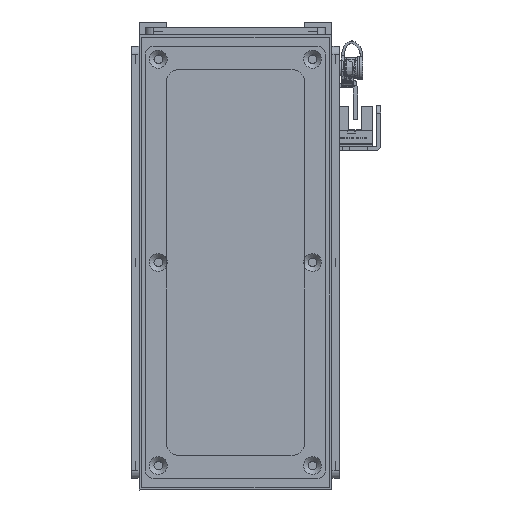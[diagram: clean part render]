
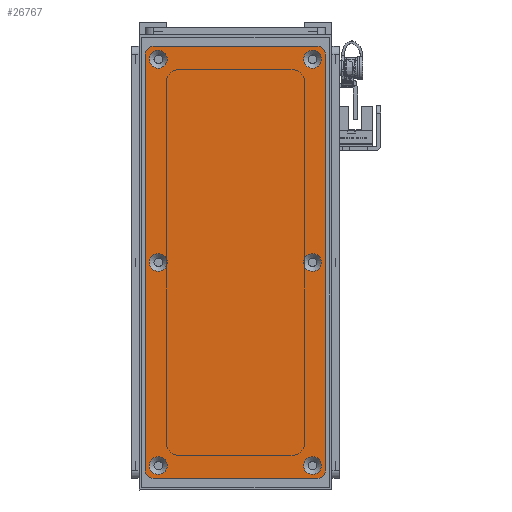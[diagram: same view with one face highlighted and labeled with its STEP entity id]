
A CAD part, left-side view. The second image highlights one B-rep face of the part: STEP entity #26767.
In plain terms, the highlighted planar face has unit normal (-1, 0, 0) as drawn and (0, 0, 1) by its records, which use the part's own axes.
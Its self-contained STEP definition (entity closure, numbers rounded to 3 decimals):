
#1144=FACE_BOUND('',#5763,.T.);
#1145=FACE_BOUND('',#5764,.T.);
#1146=FACE_BOUND('',#5765,.T.);
#1147=FACE_BOUND('',#5766,.T.);
#1148=FACE_BOUND('',#5767,.T.);
#1149=FACE_BOUND('',#5768,.T.);
#1818=PLANE('',#30044);
#3847=FACE_OUTER_BOUND('',#5762,.T.);
#5762=EDGE_LOOP('',(#25049,#25050,#25051,#25052,#25053,#25054,#25055,#25056));
#5763=EDGE_LOOP('',(#25057));
#5764=EDGE_LOOP('',(#25058));
#5765=EDGE_LOOP('',(#25059));
#5766=EDGE_LOOP('',(#25060));
#5767=EDGE_LOOP('',(#25061));
#5768=EDGE_LOOP('',(#25062));
#7951=LINE('',#46772,#10135);
#7954=LINE('',#46780,#10138);
#7957=LINE('',#46788,#10141);
#7960=LINE('',#46795,#10144);
#10135=VECTOR('',#37858,10.);
#10138=VECTOR('',#37867,10.);
#10141=VECTOR('',#37876,10.);
#10144=VECTOR('',#37885,10.);
#11514=CIRCLE('',#29998,3.45);
#11517=CIRCLE('',#30003,3.45);
#11520=CIRCLE('',#30008,3.45);
#11523=CIRCLE('',#30013,3.45);
#11526=CIRCLE('',#30018,3.45);
#11529=CIRCLE('',#30023,3.45);
#11536=CIRCLE('',#30033,3.);
#11537=CIRCLE('',#30036,3.);
#11538=CIRCLE('',#30039,3.);
#11539=CIRCLE('',#30042,3.);
#13970=VERTEX_POINT('',#46688);
#13973=VERTEX_POINT('',#46698);
#13976=VERTEX_POINT('',#46708);
#13979=VERTEX_POINT('',#46718);
#13982=VERTEX_POINT('',#46728);
#13985=VERTEX_POINT('',#46738);
#13996=VERTEX_POINT('',#46765);
#13997=VERTEX_POINT('',#46767);
#13998=VERTEX_POINT('',#46771);
#13999=VERTEX_POINT('',#46775);
#14000=VERTEX_POINT('',#46779);
#14001=VERTEX_POINT('',#46783);
#14002=VERTEX_POINT('',#46787);
#14003=VERTEX_POINT('',#46791);
#17645=EDGE_CURVE('',#13970,#13970,#11514,.T.);
#17650=EDGE_CURVE('',#13973,#13973,#11517,.T.);
#17655=EDGE_CURVE('',#13976,#13976,#11520,.T.);
#17660=EDGE_CURVE('',#13979,#13979,#11523,.T.);
#17665=EDGE_CURVE('',#13982,#13982,#11526,.T.);
#17670=EDGE_CURVE('',#13985,#13985,#11529,.T.);
#17684=EDGE_CURVE('',#13997,#13996,#11536,.T.);
#17686=EDGE_CURVE('',#13998,#13997,#7951,.T.);
#17688=EDGE_CURVE('',#13999,#13998,#11537,.T.);
#17690=EDGE_CURVE('',#14000,#13999,#7954,.T.);
#17692=EDGE_CURVE('',#14001,#14000,#11538,.T.);
#17694=EDGE_CURVE('',#14002,#14001,#7957,.T.);
#17696=EDGE_CURVE('',#14003,#14002,#11539,.T.);
#17698=EDGE_CURVE('',#13996,#14003,#7960,.T.);
#25049=ORIENTED_EDGE('',*,*,#17698,.T.);
#25050=ORIENTED_EDGE('',*,*,#17696,.T.);
#25051=ORIENTED_EDGE('',*,*,#17694,.T.);
#25052=ORIENTED_EDGE('',*,*,#17692,.T.);
#25053=ORIENTED_EDGE('',*,*,#17690,.T.);
#25054=ORIENTED_EDGE('',*,*,#17688,.T.);
#25055=ORIENTED_EDGE('',*,*,#17686,.T.);
#25056=ORIENTED_EDGE('',*,*,#17684,.T.);
#25057=ORIENTED_EDGE('',*,*,#17645,.T.);
#25058=ORIENTED_EDGE('',*,*,#17650,.T.);
#25059=ORIENTED_EDGE('',*,*,#17655,.T.);
#25060=ORIENTED_EDGE('',*,*,#17660,.T.);
#25061=ORIENTED_EDGE('',*,*,#17665,.T.);
#25062=ORIENTED_EDGE('',*,*,#17670,.T.);
#26767=ADVANCED_FACE('',(#3847,#1144,#1145,#1146,#1147,#1148,#1149),#1818,
 .T.);
#29998=AXIS2_PLACEMENT_3D('',#46689,#37766,#37767);
#30003=AXIS2_PLACEMENT_3D('',#46699,#37778,#37779);
#30008=AXIS2_PLACEMENT_3D('',#46709,#37790,#37791);
#30013=AXIS2_PLACEMENT_3D('',#46719,#37802,#37803);
#30018=AXIS2_PLACEMENT_3D('',#46729,#37814,#37815);
#30023=AXIS2_PLACEMENT_3D('',#46739,#37826,#37827);
#30033=AXIS2_PLACEMENT_3D('',#46768,#37853,#37854);
#30036=AXIS2_PLACEMENT_3D('',#46776,#37862,#37863);
#30039=AXIS2_PLACEMENT_3D('',#46784,#37871,#37872);
#30042=AXIS2_PLACEMENT_3D('',#46792,#37880,#37881);
#30044=AXIS2_PLACEMENT_3D('',#46796,#37886,#37887);
#37766=DIRECTION('center_axis',(0.,0.,-1.));
#37767=DIRECTION('ref_axis',(1.,0.,0.));
#37778=DIRECTION('center_axis',(0.,0.,-1.));
#37779=DIRECTION('ref_axis',(1.,0.,0.));
#37790=DIRECTION('center_axis',(0.,0.,-1.));
#37791=DIRECTION('ref_axis',(1.,0.,0.));
#37802=DIRECTION('center_axis',(0.,0.,-1.));
#37803=DIRECTION('ref_axis',(1.,0.,0.));
#37814=DIRECTION('center_axis',(0.,0.,-1.));
#37815=DIRECTION('ref_axis',(1.,0.,0.));
#37826=DIRECTION('center_axis',(0.,0.,-1.));
#37827=DIRECTION('ref_axis',(1.,0.,0.));
#37853=DIRECTION('center_axis',(0.,0.,1.));
#37854=DIRECTION('ref_axis',(-1.,0.,0.));
#37858=DIRECTION('',(0.,1.,0.));
#37862=DIRECTION('center_axis',(0.,0.,1.));
#37863=DIRECTION('ref_axis',(0.,1.,0.));
#37867=DIRECTION('',(1.,0.,0.));
#37871=DIRECTION('center_axis',(0.,0.,1.));
#37872=DIRECTION('ref_axis',(1.,0.,0.));
#37876=DIRECTION('',(0.,-1.,0.));
#37880=DIRECTION('center_axis',(0.,0.,1.));
#37881=DIRECTION('ref_axis',(0.,-1.,0.));
#37885=DIRECTION('',(-1.,0.,0.));
#37886=DIRECTION('center_axis',(0.,0.,1.));
#37887=DIRECTION('ref_axis',(1.,0.,0.));
#46688=CARTESIAN_POINT('',(-3.45,30.,1.5));
#46689=CARTESIAN_POINT('Origin',(0.,30.,1.5));
#46698=CARTESIAN_POINT('',(75.55,-30.,1.5));
#46699=CARTESIAN_POINT('Origin',(79.,-30.,1.5));
#46708=CARTESIAN_POINT('',(-82.45,30.,1.5));
#46709=CARTESIAN_POINT('Origin',(-79.,30.,1.5));
#46718=CARTESIAN_POINT('',(75.55,30.,1.5));
#46719=CARTESIAN_POINT('Origin',(79.,30.,1.5));
#46728=CARTESIAN_POINT('',(-82.45,-30.,1.5));
#46729=CARTESIAN_POINT('Origin',(-79.,-30.,1.5));
#46738=CARTESIAN_POINT('',(-3.45,-30.,1.5));
#46739=CARTESIAN_POINT('Origin',(0.,-30.,1.5));
#46765=CARTESIAN_POINT('',(81.,35.,1.5));
#46767=CARTESIAN_POINT('',(84.,32.,1.5));
#46768=CARTESIAN_POINT('Origin',(81.,32.,1.5));
#46771=CARTESIAN_POINT('',(84.,-32.,1.5));
#46772=CARTESIAN_POINT('',(84.,32.,1.5));
#46775=CARTESIAN_POINT('',(81.,-35.,1.5));
#46776=CARTESIAN_POINT('Origin',(81.,-32.,1.5));
#46779=CARTESIAN_POINT('',(-81.,-35.,1.5));
#46780=CARTESIAN_POINT('',(81.,-35.,1.5));
#46783=CARTESIAN_POINT('',(-84.,-32.,1.5));
#46784=CARTESIAN_POINT('Origin',(-81.,-32.,1.5));
#46787=CARTESIAN_POINT('',(-84.,32.,1.5));
#46788=CARTESIAN_POINT('',(-84.,-32.,1.5));
#46791=CARTESIAN_POINT('',(-81.,35.,1.5));
#46792=CARTESIAN_POINT('Origin',(-81.,32.,1.5));
#46795=CARTESIAN_POINT('',(-81.,35.,1.5));
#46796=CARTESIAN_POINT('Origin',(0.,0.,
1.5));
